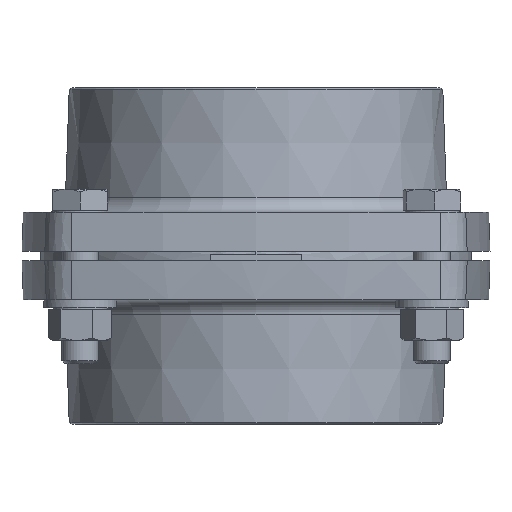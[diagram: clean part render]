
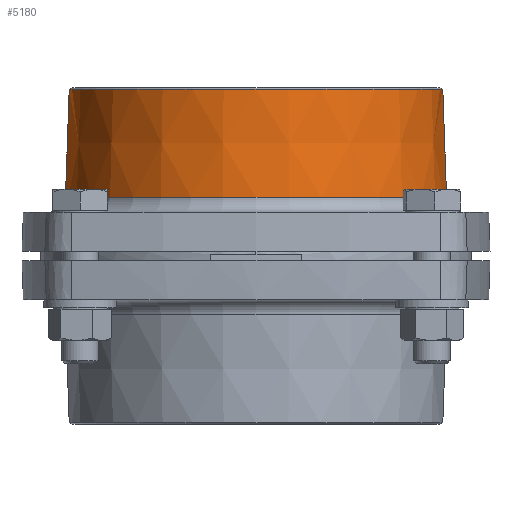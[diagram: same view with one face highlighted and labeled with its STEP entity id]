
A CAD part, front view. The second image highlights one B-rep face of the part: STEP entity #5180.
In plain terms, the highlighted conical face has half-angle 2 degrees and reference radius 63 mm.
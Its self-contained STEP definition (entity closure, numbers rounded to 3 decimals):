
#64 = VERTEX_POINT ( 'NONE', #7570 ) ;
#311 = CARTESIAN_POINT ( 'NONE',  ( 33.779, 14.557, 31.201 ) ) ;
#434 = VERTEX_POINT ( 'NONE', #311 ) ;
#484 = DIRECTION ( 'NONE',  ( -0.035, 0., -0.999 ) ) ;
#800 = AXIS2_PLACEMENT_3D ( 'NONE', #4458, #6328, #6373 ) ;
#857 = VECTOR ( 'NONE', #5618, 1000. ) ;
#1163 = CARTESIAN_POINT ( 'NONE',  ( -27.81, 14.557, -4.389 ) ) ;
#1799 = EDGE_CURVE ( 'NONE', #434, #64, #7225, .T. ) ;
#2110 = DIRECTION ( 'NONE',  ( 1., 0., 0. ) ) ;
#2270 = EDGE_CURVE ( 'NONE', #7387, #64, #6346, .T. ) ;
#2768 = CONICAL_SURFACE ( 'NONE', #800, 63., 0.035 ) ;
#2825 = CARTESIAN_POINT ( 'NONE',  ( 35.19, 14.557, -9.215 ) ) ;
#3066 = CIRCLE ( 'NONE', #5044, 61.589 ) ;
#3734 = EDGE_CURVE ( 'NONE', #434, #10811, #3066, .T. ) ;
#3940 = FACE_OUTER_BOUND ( 'NONE', #4882, .T. ) ;
#3970 = AXIS2_PLACEMENT_3D ( 'NONE', #1163, #7627, #2110 ) ;
#4119 = VECTOR ( 'NONE', #484, 1000. ) ;
#4458 = CARTESIAN_POINT ( 'NONE',  ( -27.81, 14.557, -9.215 ) ) ;
#4580 = CARTESIAN_POINT ( 'NONE',  ( -89.399, 14.557, 31.201 ) ) ;
#4663 = CARTESIAN_POINT ( 'NONE',  ( -27.81, 14.557, 31.201 ) ) ;
#4882 = EDGE_LOOP ( 'NONE', ( #5258, #4903, #10246, #7093 ) ) ;
#4903 = ORIENTED_EDGE ( 'NONE', *, *, #9022, .T. ) ;
#5044 = AXIS2_PLACEMENT_3D ( 'NONE', #4663, #11095, #5616 ) ;
#5180 = ADVANCED_FACE ( 'NONE', ( #3940 ), #2768, .T. ) ;
#5258 = ORIENTED_EDGE ( 'NONE', *, *, #3734, .T. ) ;
#5616 = DIRECTION ( 'NONE',  ( -1., 0., 0. ) ) ;
#5618 = DIRECTION ( 'NONE',  ( 0.035, 0., -0.999 ) ) ;
#6057 = CARTESIAN_POINT ( 'NONE',  ( -90.81, 14.557, -9.215 ) ) ;
#6328 = DIRECTION ( 'NONE',  ( 0., 0., -1. ) ) ;
#6346 = CIRCLE ( 'NONE', #3970, 62.831 ) ;
#6373 = DIRECTION ( 'NONE',  ( 1., 0., 0. ) ) ;
#7093 = ORIENTED_EDGE ( 'NONE', *, *, #1799, .F. ) ;
#7211 = CARTESIAN_POINT ( 'NONE',  ( -90.641, 14.557, -4.389 ) ) ;
#7225 = LINE ( 'NONE', #2825, #857 ) ;
#7387 = VERTEX_POINT ( 'NONE', #7211 ) ;
#7570 = CARTESIAN_POINT ( 'NONE',  ( 35.021, 14.557, -4.389 ) ) ;
#7627 = DIRECTION ( 'NONE',  ( 0., 0., 1. ) ) ;
#9022 = EDGE_CURVE ( 'NONE', #10811, #7387, #11463, .T. ) ;
#10246 = ORIENTED_EDGE ( 'NONE', *, *, #2270, .T. ) ;
#10811 = VERTEX_POINT ( 'NONE', #4580 ) ;
#11095 = DIRECTION ( 'NONE',  ( 0., 0., -1. ) ) ;
#11463 = LINE ( 'NONE', #6057, #4119 ) ;
